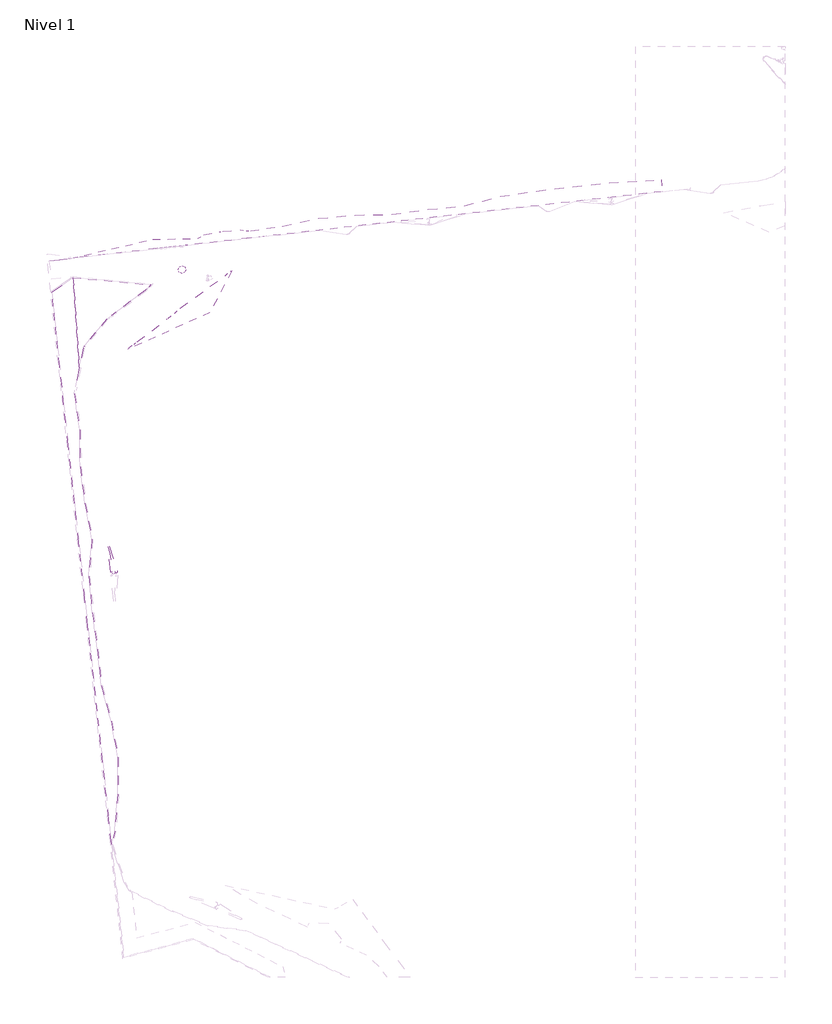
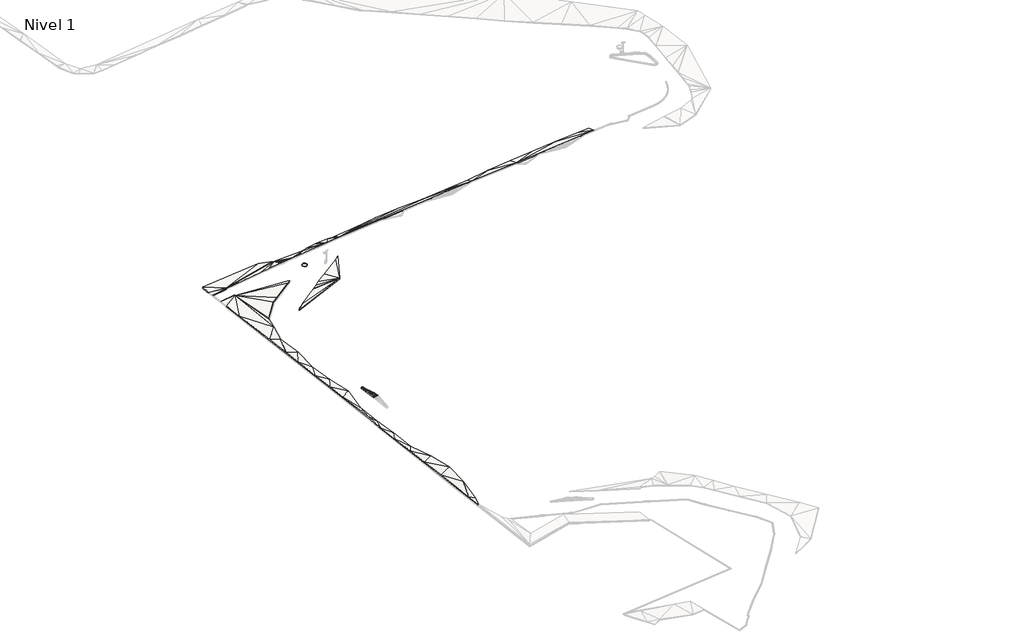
# One storey, part 15 of 45: 7 slabs.
"""IFC4 building model written with IfcOpenShell, lengths in millimetres."""

from ifc_helpers import new_model, si_unit, point, frame, frame_2d, origin, place, context, project, spatial, polyline, circle_curve, trimmed, segment, composite_curve, outline, extrude, faceted_brep, element, save
from ifc_brep_helpers import plane_surface, cylinder_surface, revolved_surface, spline_surface, advanced_brep

model = new_model("IFC4")

# Units and contexts
model_context = context("Model", 3, world=origin())
ifc_project = project(units=[si_unit("LENGTHUNIT", "METRE", prefix="MILLI")], contexts=[model_context])

# Site, building, storey
site = spatial("IfcSite", under=ifc_project)
building = spatial("IfcBuilding", under=site)
storey = spatial("IfcBuildingStorey", under=building, Name="Nivel 1", Elevation=0.0)

# Slabs
placement = place(None, origin())
element("IfcSlab", 1, ObjectType="Tierra de Chacra (50cm)", at=placement, inside=storey, context=model_context, shape_type="Brep", body=[
    faceted_brep([(-294089.6348993, -259022.6133777, 2811.5), (-294089.6348993, -259022.6133777, 3311.5), (-294907.8505448, -262636.9399536, 3000.0), (-294907.8505448, -262636.9399536, 2500.0), (-295528.3247091, -256915.565429, 3000.0), (-296342.142149, -249411.3780895, 3000.0), (-297338.1602518, -240227.1236483, 3000.0), (-298420.5217506, -230246.6992222, 3000.0), (-299320.3072824, -221949.8025658, 3000.0), (-300343.6716431, -212513.3890627, 3000.0), (-301250.0430893, -204155.7638787, 3000.0), (-302071.0453243, -196585.3257491, 3500.0), (-302863.1211213, -189281.6174766, 3500.0), (-303719.5992806, -181384.0568642, 3500.0), (-304525.2708274, -173954.9825723, 3500.0), (-305497.9026275, -164986.3725595, 3500.0), (-306592.7570737, -154890.7510227, 3500.0), (-307399.8586289, -147448.4906636, 3500.0), (-308450.3842535, -137761.6239233, 3500.0), (-309602.5820904, -127137.2406201, 3500.0), (-310427.3751029, -119531.8478398, 3500.0), (-311252.1681154, -111926.4550596, 3500.0), (-311252.1681154, -111926.4550596, 3000.0), (-310427.3751029, -119531.8478398, 3000.0), (-309602.5820904, -127137.2406201, 3000.0), (-308450.3842535, -137761.6239233, 3000.0), (-307399.8586289, -147448.4906636, 3000.0), (-306592.7570737, -154890.7510227, 3000.0), (-305497.9026275, -164986.3725595, 3000.0), (-304525.2708274, -173954.9825723, 3000.0), (-303719.5992806, -181384.0568642, 3000.0), (-302863.1211213, -189281.6174766, 3000.0), (-302071.0453243, -196585.3257491, 3000.0), (-301250.0430893, -204155.7638787, 2500.0), (-300343.6716431, -212513.3890627, 2500.0), (-299320.3072824, -221949.8025658, 2500.0), (-298420.5217506, -230246.6992222, 2500.0), (-297338.1602518, -240227.1236483, 2500.0), (-296342.142149, -249411.3780895, 2500.0), (-295528.3247091, -256915.565429, 2500.0), (-305459.9050286, -107899.422368, 3545.8087454), (-305459.9050286, -107899.422368, 3045.8087454), (-303683.7877777, -132366.510428, 4070.8056973), (-303683.7877777, -132366.510428, 3570.8056973), (-305121.3673077, -139539.3314468, 3795.0), (-305121.3673077, -139539.3314468, 3295.0), (-303659.8281486, -149473.2817741, 3696.8), (-303659.8281486, -149473.2817741, 3196.8), (-303513.4155731, -159517.8640647, 3170.0), (-303513.4155731, -159517.8640647, 2670.0), (-302231.9823922, -169463.731782, 3230.0), (-302231.9823922, -169463.731782, 2730.0), (-300307.0572754, -179277.2152195, 3500.0), (-300307.0572754, -179277.2152195, 3000.0), (-301181.6716311, -189426.5161133, 2826.1), (-301181.6716311, -189426.5161133, 2326.1), (-300146.8998808, -199406.0217509, 2796.3999992), (-300146.8998808, -199406.0217509, 2296.3999992), (-298844.3020353, -209323.8130337, 3000.0), (-298844.3020353, -209323.8130337, 2500.0), (-297719.9239631, -219281.1373038, 2852.474553), (-297719.9239631, -219281.1373038, 2352.474553), (-295040.61102, -229051.5675465, 3750.0), (-295040.61102, -229051.5675465, 3250.0), (-293270.7451273, -238875.2907751, 4341.8), (-293270.7451273, -238875.2907751, 3841.8), (-293231.2547991, -248895.168533, 3982.4), (-293231.2547991, -248895.168533, 3482.4)], [[[0, 1, 2, 3]], [[3, 2, 4, 5, 6, 7, 8, 9, 10, 11, 12, 13, 14, 15, 16, 17, 18, 19, 20, 21, 22, 23, 24, 25, 26, 27, 28, 29, 30, 31, 32, 33, 34, 35, 36, 37, 38, 39]], [[22, 21, 40, 41]], [[41, 40, 42, 43]], [[43, 42, 44, 45]], [[45, 44, 46, 47]], [[47, 46, 48, 49]], [[49, 48, 50, 51]], [[51, 50, 52, 53]], [[53, 52, 54, 55]], [[55, 54, 56, 57]], [[57, 56, 58, 59]], [[59, 58, 60, 61]], [[61, 60, 62, 63]], [[63, 62, 64, 65]], [[65, 64, 66, 67]], [[67, 66, 1, 0]], [[66, 64, 6]], [[67, 37, 65]], [[42, 40, 20]], [[43, 23, 41]], [[48, 46, 16]], [[54, 52, 13]], [[44, 42, 18]], [[56, 54, 11]], [[49, 27, 47]], [[55, 30, 53]], [[45, 25, 43]], [[57, 32, 55]], [[64, 62, 7]], [[2, 1, 4]], [[62, 60, 8]], [[66, 4, 1]], [[58, 56, 10]], [[60, 58, 9]], [[65, 36, 63]], [[3, 39, 0]], [[63, 35, 61]], [[67, 0, 39]], [[59, 33, 57]], [[61, 34, 59]], [[66, 6, 5, 4]], [[67, 39, 38, 37]], [[64, 7, 6]], [[65, 37, 36]], [[62, 8, 7]], [[63, 36, 35]], [[60, 9, 8]], [[61, 35, 34]], [[58, 10, 9]], [[59, 34, 33]], [[50, 48, 15]], [[56, 11, 10]], [[51, 28, 49]], [[57, 33, 32]], [[52, 50, 14]], [[53, 29, 51]], [[54, 13, 12, 11]], [[55, 32, 31, 30]], [[52, 14, 13]], [[53, 30, 29]], [[50, 15, 14]], [[46, 44, 17]], [[51, 29, 28]], [[47, 26, 45]], [[48, 16, 15]], [[49, 28, 27]], [[46, 17, 16]], [[47, 27, 26]], [[44, 18, 17]], [[45, 26, 25]], [[40, 21, 20]], [[41, 23, 22]], [[42, 20, 19, 18]], [[43, 25, 24, 23]]]),
    faceted_brep([(-284103.5525806, -97223.3113436, 3793.9858284), (-284103.5525806, -97223.3113436, 4293.9858284), (-306068.7538572, -102285.9457894, 3515.7515866), (-306068.7538572, -102285.9457894, 3015.7515866), (-312404.9739153, -101296.4657465, 3330.0), (-312404.9739153, -101296.4657465, 2830.0), (-312804.0307431, -97616.7741468, 3500.0), (-312804.0307431, -97616.7741468, 3000.0), (-288542.628562, -94877.4682408, 3500.0), (-288542.628562, -94877.4682408, 3000.0)], [[[0, 1, 2, 3]], [[3, 2, 4, 5]], [[5, 4, 6, 7]], [[7, 6, 8, 9]], [[9, 8, 1, 0]], [[8, 6, 2]], [[9, 3, 7]], [[8, 2, 1]], [[9, 0, 3]], [[6, 4, 2]], [[7, 3, 5]]]),
])
element("IfcSlab", 2, ObjectType="Chilca", at=placement, inside=storey, context=model_context, shape_type="Brep", body=[
    faceted_brep([(-149037.9826503, -81397.3503536, 3302.2817025), (-149037.9826503, -81397.3503536, 3602.2817025), (-144881.3928161, -81090.9838808, 3656.1832414), (-144881.3928161, -81090.9838808, 3356.1832414), (-144640.0088459, -84365.9315192, 4750.0), (-144640.0088459, -84365.9315192, 4450.0), (-178435.2829601, -88181.6876426, 4750.0), (-198335.9966557, -90428.6370204, 5150.0), (-256639.855435, -97011.6079235, 5150.0), (-262086.3507826, -97626.5607096, 5035.9), (-262086.3507826, -97626.5607096, 4735.9), (-256639.855435, -97011.6079235, 4850.0), (-198335.9966557, -90428.6370204, 4850.0), (-178435.2829601, -88181.6876426, 4450.0), (-274177.1483266, -98991.7082312, 4778.999929), (-275369.5719508, -99126.3423734, 4785.2939881), (-277456.3128498, -99361.9520721, 4728.8969573), (-278648.736853, -99496.5862571, 4674.3986952), (-279841.1605037, -99631.2204022, 4665.5098549), (-281113.0783122, -99774.8300721, 4633.7704242), (-282305.7041402, -99909.4870447, 4586.7101586), (-287324.4384064, -100476.1421905, 4465.3928596), (-291152.5223526, -100908.3634144, 4274.0659802), (-291152.5223526, -100908.3634144, 3974.0659802), (-287324.4384064, -100476.1421905, 4165.3928596), (-282305.7041402, -99909.4870447, 4286.7101586), (-281113.0783122, -99774.8300721, 4333.7704242), (-279841.1605037, -99631.2204022, 4365.5098549), (-278648.736853, -99496.5862571, 4374.3986952), (-277456.3128498, -99361.9520721, 4428.8969573), (-275369.5719508, -99126.3423734, 4485.2939881), (-274177.1483266, -98991.7082312, 4478.999929), (-306057.8153612, -102591.2899742, 3529.1), (-306057.8153612, -102591.2899742, 3229.1), (-283619.1656319, -97419.5330957, 4276.1256345), (-283619.1656319, -97419.5330957, 3976.1256345), (-271379.8215853, -97157.0177706, 4646.9412032), (-271379.8215853, -97157.0177706, 4346.9412032), (-269768.5162542, -96204.929342, 4391.8615974), (-269768.5162542, -96204.929342, 4091.8615974), (-265506.9142043, -95370.902968, 4274.9996971), (-265506.9142043, -95370.902968, 3974.9996971), (-264626.3086134, -95201.7155396, 4251.8921306), (-264626.3086134, -95201.7155396, 3951.8921306), (-259800.9517181, -94867.1756586, 4321.6582001), (-259800.9517181, -94867.1756586, 4021.6582001), (-258192.6888797, -95074.1954422, 4450.2864115), (-258192.6888797, -95074.1954422, 4150.2864115), (-256857.9831992, -95079.5025708, 4501.9298785), (-256857.9831992, -95079.5025708, 4201.9298785), (-248272.2306542, -93806.9601892, 4401.5437774), (-248272.2306542, -93806.9601892, 4101.5437774), (-238446.716124, -91698.830468, 4071.2068809), (-238446.716124, -91698.830468, 3771.2068809), (-228484.0106274, -90805.7695715, 4147.4776568), (-228484.0106274, -90805.7695715, 3847.4776568), (-218440.8160933, -90625.5815657, 4463.3840254), (-218440.8160933, -90625.5815657, 4163.3840254), (-208530.5163527, -89268.3749473, 4384.8113124), (-208530.5163527, -89268.3749473, 4084.8113124), (-198583.7104944, -88234.4946148, 4413.9875556), (-198583.7104944, -88234.4946148, 4113.9875556), (-188806.4138191, -85699.3104475, 3740.0179055), (-188806.4138191, -85699.3104475, 3440.0179055), (-178907.051195, -84245.236305, 3428.5706141), (-178907.051195, -84245.236305, 3128.5706141), (-168977.8694934, -83055.2628687, 3405.7046783), (-168977.8694934, -83055.2628687, 3105.7046783), (-159039.5103699, -81946.57175, 3410.137052), (-159039.5103699, -81946.57175, 3110.137052)], [[[0, 1, 2, 3]], [[3, 2, 4, 5]], [[5, 4, 6, 7, 8, 9, 10, 11, 12, 13]], [[10, 9, 14, 15, 16, 17, 18, 19, 20, 21, 22, 23, 24, 25, 26, 27, 28, 29, 30, 31]], [[23, 22, 32, 33]], [[33, 32, 34, 35]], [[35, 34, 36, 37]], [[37, 36, 38, 39]], [[39, 38, 40, 41]], [[41, 40, 42, 43]], [[43, 42, 44, 45]], [[45, 44, 46, 47]], [[47, 46, 48, 49]], [[49, 48, 50, 51]], [[51, 50, 52, 53]], [[53, 52, 54, 55]], [[55, 54, 56, 57]], [[57, 56, 58, 59]], [[59, 58, 60, 61]], [[61, 60, 62, 63]], [[63, 62, 64, 65]], [[65, 64, 66, 67]], [[67, 66, 68, 69]], [[69, 68, 1, 0]], [[68, 66, 6]], [[69, 13, 67]], [[56, 54, 8]], [[60, 58, 7]], [[64, 62, 6]], [[66, 64, 6]], [[4, 2, 1]], [[68, 4, 1]], [[57, 11, 55]], [[61, 12, 59]], [[65, 13, 63]], [[67, 13, 65]], [[5, 0, 3]], [[69, 0, 5]], [[36, 34, 16]], [[38, 36, 9]], [[40, 38, 9]], [[44, 42, 9]], [[42, 40, 9]], [[46, 44, 8]], [[50, 48, 8]], [[48, 46, 8]], [[37, 29, 35]], [[39, 10, 37]], [[41, 10, 39]], [[45, 10, 43]], [[43, 10, 41]], [[47, 11, 45]], [[51, 11, 49]], [[49, 11, 47]], [[34, 32, 22]], [[35, 23, 33]], [[54, 52, 8]], [[55, 11, 53]], [[58, 56, 7]], [[62, 60, 7]], [[68, 6, 4]], [[59, 12, 57]], [[63, 12, 61]], [[69, 5, 13]], [[62, 7, 6]], [[63, 13, 12]], [[52, 50, 8]], [[56, 8, 7]], [[53, 11, 51]], [[57, 12, 11]], [[44, 9, 8]], [[45, 11, 10]], [[34, 22, 21]], [[35, 24, 23]], [[34, 19, 18]], [[34, 20, 19]], [[35, 27, 26]], [[35, 26, 25]], [[34, 18, 17]], [[35, 28, 27]], [[34, 17, 16]], [[36, 16, 15]], [[35, 29, 28]], [[37, 30, 29]], [[36, 15, 14]], [[37, 31, 30]], [[36, 14, 9]], [[37, 10, 31]], [[34, 21, 20]], [[35, 25, 24]]]),
])
element("IfcSlab", 3, ObjectType="Lippia", at=placement, inside=storey, context=model_context, shape_type="Brep", body=[
    faceted_brep([(-305462.4622764, -107864.1947353, 3245.0528565), (-305462.4622764, -107864.1947353, 3545.0528565), (-284279.1112514, -109828.1488376, 3694.551492), (-284279.1112514, -109828.1488376, 3394.551492), (-285382.5147654, -111081.3417336, 4063.0491768), (-285382.5147654, -111081.3417336, 3763.0491768), (-285767.6830926, -111323.0164437, 4114.3819853), (-285767.6830926, -111323.0164437, 3814.3819853), (-293766.2190526, -117345.8456746, 4268.5), (-293766.2190526, -117345.8456746, 3968.5), (-296264.7635424, -119203.9218633, 4261.8814791), (-296264.7635424, -119203.9218633, 3961.8814791), (-302409.8709224, -126558.4331392, 4007.2719973), (-302409.8709224, -126558.4331392, 3707.2719973), (-302651.7308553, -127032.6029541, 4051.5916811), (-302651.7308553, -127032.6029541, 3751.5916811), (-303683.7877777, -132366.510428, 4070.8056973), (-303683.7877777, -132366.510428, 3770.8056973)], [[[0, 1, 2, 3]], [[3, 2, 4, 5]], [[5, 4, 6, 7]], [[7, 6, 8, 9]], [[9, 8, 10, 11]], [[11, 10, 12, 13]], [[13, 12, 14, 15]], [[15, 14, 16, 17]], [[17, 16, 1, 0]], [[16, 14, 1]], [[17, 0, 15]], [[12, 10, 1]], [[14, 12, 1]], [[8, 6, 1]], [[6, 4, 2]], [[6, 2, 1]], [[10, 8, 1]], [[13, 0, 11]], [[15, 0, 13]], [[9, 0, 7]], [[7, 3, 5]], [[7, 0, 3]], [[11, 0, 9]]]),
])
element("IfcSlab", 4, ObjectType="Lippia", at=placement, inside=storey, context=model_context, shape_type="AdvancedBrep", body=[
    advanced_brep(
    [(-293737.3291511, -188615.3513584, 4450.0), (-293737.3291511, -188615.3513584, 4750.0), (-294648.1070489, -188718.4464669, 4750.0), (-294648.1070489, -188718.4464669, 4450.0), (-293351.9042997, -187939.5740195, 4450.0), (-293351.9042997, -187939.5740195, 4750.0), (-295493.1794415, -181254.5584104, 4450.0), (-295493.1794415, -181254.5584104, 4750.0), (-295197.7382553, -188279.3801084, 4450.0), (-295197.7382553, -188279.3801084, 4750.0), (-295981.2351162, -181327.8440632, 4750.0), (-295981.2351162, -181327.8440632, 4450.0), (-294116.9127317, -186771.9191441, 5250.0), (-294471.3269402, -186313.4553094, 5250.0), (-294800.8551873, -186265.3708486, 5250.0), (-294893.4712745, -186588.9282434, 5250.0), (-294767.2571789, -186832.7677923, 5250.0), (-294633.3677545, -187114.0889065, 5250.0), (-294192.9507832, -187143.1666237, 5250.0), (-294036.5342342, -187992.3946771, 5050.0), (-294489.599761, -188215.9637263, 5050.0), (-294116.9127317, -186771.9191441, 4950.0), (-294192.9507832, -187143.1666237, 4950.0), (-294633.3677545, -187114.0889065, 4950.0), (-294767.2571789, -186832.7677923, 4950.0), (-294893.4712745, -186588.9282434, 4950.0), (-294800.8551873, -186265.3708486, 4950.0), (-294471.3269402, -186313.4553094, 4950.0), (-294036.5342342, -187992.3946771, 4750.0), (-294489.599761, -188215.9637263, 4750.0), (-294665.1948215, -185054.4331454, 5050.0), (-295147.6527009, -185168.9946669, 5050.0), (-294665.1948215, -185054.4331454, 4750.0), (-295147.6527009, -185168.9946669, 4750.0), (-294848.8713557, -188017.8371039, 5050.0), (-294701.1270428, -188221.2655337, 5050.0), (-294848.8713557, -188017.8371039, 4750.0), (-294701.1270428, -188221.2655337, 4750.0), (-293792.3936468, -187726.783921, 5050.0), (-293792.3936468, -187726.783921, 4750.0), (-293790.5460685, -187366.0204436, 5050.0), (-293790.5460685, -187366.0204436, 4750.0), (-294956.7682901, -184899.6677435, 5050.0), (-294956.7682901, -184899.6677435, 4750.0)],
    [
        (0, 1),
        (1, 2),
        (2, 3),
        (3, 0),
        (4, 5),
        (5, 1, circle_curve(frame((-293817.506904, -188121.8216952, 4750.0), z_axis=(0.0, 0.0, -1.0), x_axis=(0.42823783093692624, 0.9036660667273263, 0.0)), 500.0000005)),
        (0, 4, circle_curve(frame((-293817.506904, -188121.8216952, 4450.0), z_axis=(0.0, 0.0, 1.0), x_axis=(0.42823783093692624, 0.9036660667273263, 0.0)), 500.0000005)),
        (6, 7),
        (7, 5),
        (4, 6),
        (8, 9),
        (9, 10),
        (10, 11),
        (11, 8),
        (2, 9, circle_curve(frame((-294701.1270428, -188221.2655337, 4750.0), z_axis=(0.0, 0.0, -1.0), x_axis=(0.42823783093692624, 0.9036660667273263, 0.0)), 500.0000001)),
        (8, 3, circle_curve(frame((-294701.1270428, -188221.2655337, 4450.0), z_axis=(0.0, 0.0, 1.0), x_axis=(0.42823783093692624, 0.9036660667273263, 0.0)), 500.0000001)),
        (12, 13),
        (13, 14),
        (14, 15),
        (15, 16),
        (16, 17),
        (17, 18),
        (18, 12),
        (5, 19),
        (19, 1),
        (1, 20),
        (20, 2),
        (21, 22),
        (22, 23),
        (23, 24),
        (24, 25),
        (25, 26),
        (26, 27),
        (27, 21),
        (0, 28),
        (28, 4),
        (3, 29),
        (29, 0),
        (13, 30),
        (30, 14),
        (14, 31),
        (31, 15),
        (26, 32),
        (32, 27),
        (25, 33),
        (33, 26),
        (30, 31),
        (12, 30),
        (33, 32),
        (32, 21),
        (34, 9),
        (9, 35),
        (35, 34),
        (16, 34),
        (34, 17),
        (36, 37),
        (37, 8),
        (8, 36),
        (23, 36),
        (36, 24),
        (2, 35),
        (35, 20),
        (20, 19),
        (19, 34),
        (37, 3),
        (36, 28),
        (28, 29),
        (29, 37),
        (19, 17),
        (19, 18),
        (5, 38),
        (38, 19),
        (23, 28),
        (22, 28),
        (28, 39),
        (39, 4),
        (40, 18),
        (18, 38),
        (38, 40),
        (40, 5),
        (5, 30),
        (30, 40),
        (41, 39),
        (39, 22),
        (22, 41),
        (41, 32),
        (32, 4),
        (4, 41),
        (34, 15),
        (31, 34),
        (31, 9),
        (36, 33),
        (25, 36),
        (8, 33),
        (40, 12),
        (21, 41),
        (42, 31),
        (30, 42),
        (43, 32),
        (33, 43),
        (10, 7, circle_curve(frame((-295731.2532259, -181330.8530544, 4750.0), z_axis=(0.0, 0.0, -1.0), x_axis=(0.42823783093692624, 0.9036660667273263, 0.0)), 249.999999)),
        (6, 11, circle_curve(frame((-295731.2532259, -181330.8530544, 4450.0), z_axis=(0.0, 0.0, 1.0), x_axis=(0.42823783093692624, 0.9036660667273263, 0.0)), 249.999999)),
        (31, 10),
        (42, 10),
        (42, 7),
        (30, 7),
        (11, 33),
        (11, 43),
        (6, 43),
        (6, 32),
    ],
    [
        plane_surface(frame((-293737.3291511, -188615.3513584, 4450.0), z_axis=(0.11247627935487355, -0.9936544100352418, 0.0), x_axis=(0.0, 0.0, 1.0))),
        cylinder_surface(frame((-293817.506904, -188121.8216952, 4750.0), z_axis=(0.0, 0.0, -0.9999999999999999), x_axis=(0.42823783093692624, 0.9036660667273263, 0.0)), 500.0000005),
        plane_surface(frame((-295493.1794415, -181254.5584104, 4450.0), z_axis=(0.9523385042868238, 0.3050432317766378, 0.0), x_axis=(0.0, 0.0, 1.0))),
        plane_surface(frame((-295197.7382553, -188279.3801084, 4450.0), z_axis=(-0.9937082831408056, -0.1119993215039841, 0.0), x_axis=(0.0, 0.0, 1.0))),
        cylinder_surface(frame((-294701.1270428, -188221.2655337, 4750.0), z_axis=(0.0, 0.0, -0.9999999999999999), x_axis=(0.42823783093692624, 0.9036660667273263, 0.0)), 500.0000001),
        plane_surface(frame((-294553.73455, -186718.528124, 5250.0), z_axis=(0.0, 0.0, 1.0000000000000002), x_axis=(-0.6116059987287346, 0.7911625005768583, 0.0))),
        spline_surface(2, 1, [[(-293737.3291511, -188615.3513584, 4750.0), (-294036.5342342, -187992.3946771, 5050.0)], [(-293501.5336030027, -188577.04452782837, 4750.0), (-294036.5342342, -187992.3946771, 5050.0)], [(-293383.1823680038, -188369.53563899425, 4750.0), (-294036.5342342, -187992.3946771, 5050.0)], [(-293264.83113297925, -188162.02675022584, 4750.0), (-294036.5342342, -187992.3946771, 5050.0)], [(-293351.9042997, -187939.5740195, 4750.0), (-294036.5342342, -187992.3946771, 5050.0)]], [3, 2, 3], [2, 2], [0.0, 1.0, 2.0], [0.0, 1.0], weights=[[1.0, 1.0], [0.9023052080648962, 0.9023052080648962], [1.0, 1.0], [0.9023052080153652, 0.9023052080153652], [1.0, 1.0]]),
        plane_surface(frame((-294291.6786537, -188516.5871839, 4850.0), z_axis=(0.05948162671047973, -0.5254812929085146, 0.8487233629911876), x_axis=(0.9936544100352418, 0.11247627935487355, 0.0))),
        plane_surface(frame((-294553.73455, -186718.528124, 4950.0), z_axis=(0.0, 0.0, -1.0000000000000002), x_axis=(-0.6116059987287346, 0.7911625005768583, 0.0))),
        spline_surface(1, 2, [[(-293737.3291511, -188615.3513584, 4450.0), (-293501.5336030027, -188577.04452782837, 4450.0), (-293383.1823680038, -188369.53563899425, 4450.0), (-293264.83113297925, -188162.02675022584, 4450.0), (-293351.9042997, -187939.5740195, 4450.0)], [(-294036.5342342, -187992.3946771, 4750.0), (-294036.5342342, -187992.3946771, 4750.0), (-294036.5342342, -187992.3946771, 4750.0), (-294036.5342342, -187992.3946771, 4750.0), (-294036.5342342, -187992.3946771, 4750.0)]], [2, 2], [3, 2, 3], [0.0, 1.0], [0.0, 1.0, 2.0], weights=[[1.0, 0.9023052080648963, 1.0, 0.9023052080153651, 1.0], [1.0, 0.9023052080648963, 1.0, 0.9023052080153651, 1.0]]),
        plane_surface(frame((-294291.6786537, -188516.5871839, 4550.0), z_axis=(-0.05948162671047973, 0.5254812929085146, -0.8487233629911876), x_axis=(0.9936544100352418, 0.11247627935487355, 0.0))),
        plane_surface(frame((-294645.7923163, -185877.7531011, 5183.3333333), z_axis=(0.023399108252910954, 0.1603567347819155, 0.9867817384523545), x_axis=(0.9895208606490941, -0.14438998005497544, 0.0))),
        plane_surface(frame((-294947.3263876, -186007.7645863, 5183.3333333), z_axis=(-0.28876347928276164, 0.0826565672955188, 0.9538257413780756), x_axis=(0.2751911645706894, 0.9613895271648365, 0.0))),
        plane_surface(frame((-294645.7923163, -185877.7531011, 4883.3333333), z_axis=(-0.023399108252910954, -0.1603567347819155, -0.9867817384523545), x_axis=(0.9895208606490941, -0.14438998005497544, 0.0))),
        plane_surface(frame((-294947.3263876, -186007.7645863, 4883.3333333), z_axis=(0.28876347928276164, -0.0826565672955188, -0.9538257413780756), x_axis=(0.2751911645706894, 0.9613895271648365, 0.0))),
        plane_surface(frame((-294871.2342366, -185496.2662203, 5116.6666667), z_axis=(-0.039690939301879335, 0.16715216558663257, 0.9851318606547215), x_axis=(0.29712426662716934, -0.939337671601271, 0.17135317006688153))),
        plane_surface(frame((-294417.8114978, -186046.602533, 5183.3333333), z_axis=(0.24408528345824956, 0.18868945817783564, 0.9512195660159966), x_axis=(0.15034746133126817, -0.9763906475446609, 0.155103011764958))),
        plane_surface(frame((-294871.2342366, -185496.2662203, 4816.6666667), z_axis=(0.039690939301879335, -0.16715216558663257, -0.9851318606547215), x_axis=(0.29712426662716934, -0.939337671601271, 0.17135317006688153))),
        plane_surface(frame((-294417.8114978, -186046.602533, 4883.3333333), z_axis=(-0.24408528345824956, -0.18868945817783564, -0.9512195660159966), x_axis=(0.15034746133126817, -0.9763906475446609, 0.155103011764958))),
        plane_surface(frame((-294915.9122179, -188172.827582, 4950.0), z_axis=(-0.4586719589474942, -0.33312046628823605, 0.823802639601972), x_axis=(-0.6591636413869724, -0.49417023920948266, -0.5668324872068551))),
        plane_surface(frame((-294749.8320964, -187321.5646009, 5183.3333333), z_axis=(-0.29301317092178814, -0.13945403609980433, 0.9458836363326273), x_axis=(-0.4297425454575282, 0.9029514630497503, 0.0))),
        plane_surface(frame((-294915.9122179, -188172.827582, 4650.0), z_axis=(0.4586719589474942, 0.33312046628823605, -0.823802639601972), x_axis=(-0.6591636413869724, -0.49417023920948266, -0.5668324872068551))),
        plane_surface(frame((-294749.8320964, -187321.5646009, 4883.3333333), z_axis=(0.29301317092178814, 0.13945403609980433, -0.9458836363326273), x_axis=(-0.4297425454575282, 0.9029514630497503, 0.0))),
        revolved_surface(polyline([(-294701.1270428, -188221.2655337, 5050.0), (-295197.7382553, -188279.3801084, 4750.0)]), (-294701.1270428, -188221.2655337, 5050.0), (0.0, 0.0, -1.0)),
        plane_surface(frame((-294519.0330984, -188111.8652602, 5050.0), z_axis=(0.0, 0.0, 1.0000000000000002), x_axis=(0.9996860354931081, 0.025056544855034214, 0.0))),
        plane_surface(frame((-294612.9446176, -188385.2252423, 4950.0), z_axis=(0.012922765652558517, -0.5155821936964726, 0.8567426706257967), x_axis=(0.09092853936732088, -0.8526582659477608, -0.5144957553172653))),
        revolved_surface(polyline([(-294648.1070489, -188718.4464669, 4450.0), (-294701.1270428, -188221.2655337, 4750.0)]), (-294701.1270428, -188221.2655337, 4750.0), (0.0, 0.0, -1.0)),
        plane_surface(frame((-294519.0330984, -188111.8652602, 4750.0), z_axis=(0.0, 0.0, -1.0000000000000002), x_axis=(0.9996860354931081, 0.025056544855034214, 0.0))),
        plane_surface(frame((-294612.9446176, -188385.2252423, 4650.0), z_axis=(-0.012922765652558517, 0.5155821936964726, -0.8567426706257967), x_axis=(0.09092853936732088, -0.8526582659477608, -0.5144957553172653))),
        plane_surface(frame((-294506.2577815, -187708.1068958, 5116.6666667), z_axis=(0.006815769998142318, -0.2176169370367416, 0.9760104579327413), x_axis=(-0.5523321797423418, 0.8128171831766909, 0.18508751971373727))),
        plane_surface(frame((-294287.6175906, -187416.5500691, 5183.3333333), z_axis=(-0.015309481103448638, -0.23188048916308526, 0.9726238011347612), x_axis=(-0.17646838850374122, 0.9580949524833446, 0.2256390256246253))),
        plane_surface(frame((-293726.9440602, -187886.2508725, 4950.0), z_axis=(0.39713872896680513, -0.3650367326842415, 0.8420386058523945), x_axis=(0.9136457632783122, 0.07048971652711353, -0.40035311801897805))),
        plane_surface(frame((-294087.8210488, -188274.5699206, 4950.0), z_axis=(0.1762173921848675, -0.3571067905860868, 0.9172906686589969), x_axis=(0.8330728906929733, -0.4422863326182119, -0.3322233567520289))),
        plane_surface(frame((-294506.2577815, -187708.1068958, 4816.6666667), z_axis=(-0.006815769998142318, 0.2176169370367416, -0.9760104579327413), x_axis=(-0.5523321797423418, 0.8128171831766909, 0.18508751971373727))),
        plane_surface(frame((-294287.6175906, -187416.5500691, 4883.3333333), z_axis=(0.015309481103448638, 0.23188048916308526, -0.9726238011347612), x_axis=(-0.17646838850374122, 0.9580949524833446, 0.2256390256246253))),
        plane_surface(frame((-293726.9440602, -187886.2508725, 4650.0), z_axis=(-0.39713872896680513, 0.3650367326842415, -0.8420386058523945), x_axis=(0.9136457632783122, 0.07048971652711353, -0.40035311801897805))),
        plane_surface(frame((-294087.8210488, -188274.5699206, 4650.0), z_axis=(-0.1762173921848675, 0.3571067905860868, -0.9172906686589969), x_axis=(0.8330728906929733, -0.4422863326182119, -0.3322233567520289))),
        plane_surface(frame((-293925.2968329, -187411.9903295, 5116.6666667), z_axis=(0.4440603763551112, -0.002274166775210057, 0.8959939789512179), x_axis=(-0.8022568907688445, 0.4442940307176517, 0.3987313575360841))),
        plane_surface(frame((-293935.8817299, -186786.6758695, 4950.0), z_axis=(0.7694790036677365, 0.2911522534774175, 0.5684473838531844), x_axis=(0.5609934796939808, -0.7335366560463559, -0.38367993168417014))),
        plane_surface(frame((-293925.2968329, -187411.9903295, 4816.6666667), z_axis=(-0.4440603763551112, 0.002274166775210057, -0.8959939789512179), x_axis=(-0.8022568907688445, 0.4442940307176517, 0.3987313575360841))),
        plane_surface(frame((-293935.8817299, -186786.6758695, 4650.0), z_axis=(-0.7694790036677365, -0.2911522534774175, -0.5684473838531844), x_axis=(0.5609934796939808, -0.7335366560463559, -0.38367993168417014))),
        plane_surface(frame((-294007.2928881, -187620.7817406, 5116.6666667), z_axis=(0.20500570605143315, -0.18843443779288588, 0.960450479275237), x_axis=(-0.544557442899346, 0.7934277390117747, 0.271900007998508))),
        plane_surface(frame((-294007.2928881, -187620.7817406, 4816.6666667), z_axis=(-0.20500570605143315, 0.18843443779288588, -0.960450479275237), x_axis=(-0.544557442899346, 0.7934277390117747, 0.271900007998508))),
        plane_surface(frame((-294963.331777, -186591.9200047, 5116.6666667), z_axis=(-0.8811347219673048, -0.0924117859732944, 0.4637474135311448), x_axis=(-0.030896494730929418, 0.9898734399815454, 0.13854955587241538))),
        plane_surface(frame((-294836.5332697, -187146.5110465, 5183.3333333), z_axis=(-0.2737495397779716, -0.14169584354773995, 0.9513061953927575), x_axis=(0.06775235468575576, 0.9837903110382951, 0.16603084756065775))),
        plane_surface(frame((-295064.7541039, -187155.4039597, 4950.0), z_axis=(-0.6220514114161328, -0.06523960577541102, 0.7802536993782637), x_axis=(-0.016026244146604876, -0.9952529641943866, -0.09599321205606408))),
        plane_surface(frame((-294963.331777, -186591.9200047, 4816.6666667), z_axis=(0.8811347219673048, 0.0924117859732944, -0.4637474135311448), x_axis=(-0.030896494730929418, 0.9898734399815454, 0.13854955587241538))),
        plane_surface(frame((-294836.5332697, -187146.5110465, 4883.3333333), z_axis=(0.2737495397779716, 0.14169584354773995, -0.9513061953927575), x_axis=(0.06775235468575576, 0.9837903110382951, 0.16603084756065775))),
        plane_surface(frame((-295064.7541039, -187155.4039597, 4650.0), z_axis=(0.6220514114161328, 0.06523960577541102, -0.7802536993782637), x_axis=(-0.016026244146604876, -0.9952529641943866, -0.09599321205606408))),
        plane_surface(frame((-294033.4698611, -187093.7020705, 5183.3333333), z_axis=(0.4062004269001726, -0.08319703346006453, 0.9099887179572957), x_axis=(-0.20065221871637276, -0.9796625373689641, 0.0))),
        plane_surface(frame((-294190.8845406, -186397.4575777, 5116.6666667), z_axis=(0.8448237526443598, 0.31966088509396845, 0.4290568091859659), x_axis=(0.3022606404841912, -0.946827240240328, 0.11025734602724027))),
        plane_surface(frame((-294033.4698611, -187093.7020705, 4883.3333333), z_axis=(-0.4062004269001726, 0.08319703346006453, -0.9099887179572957), x_axis=(-0.20065221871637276, -0.9796625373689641, 0.0))),
        plane_surface(frame((-294190.8845406, -186397.4575777, 4816.6666667), z_axis=(-0.8448237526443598, -0.31966088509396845, -0.4290568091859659), x_axis=(0.3022606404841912, -0.946827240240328, 0.11025734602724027))),
        plane_surface(frame((-294923.2052708, -185041.031852, 5050.0), z_axis=(0.0, 0.0, 1.0), x_axis=(-0.578241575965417, -0.8158656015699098, 0.0))),
        plane_surface(frame((-293644.948005, -187677.4594614, 4950.0), z_axis=(0.5619569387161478, -0.0028779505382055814, 0.8271614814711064), x_axis=(0.7675958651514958, -0.370807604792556, -0.5227794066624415))),
        plane_surface(frame((-294923.2052708, -185041.031852, 4750.0), z_axis=(0.0, 0.0, -1.0), x_axis=(-0.578241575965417, -0.8158656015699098, 0.0))),
        plane_surface(frame((-293644.948005, -187677.4594614, 4650.0), z_axis=(-0.5619569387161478, 0.0028779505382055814, -0.8271614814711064), x_axis=(0.7675958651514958, -0.370807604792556, -0.5227794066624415))),
        cylinder_surface(frame((-295731.2532259, -181330.8530544, 4750.0), z_axis=(0.0, 0.0, -0.9999999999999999), x_axis=(0.42823783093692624, 0.9036660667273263, 0.0)), 249.999999),
        plane_surface(frame((-295442.2086908, -184925.4062795, 4850.0), z_axis=(-0.5980112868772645, -0.06740092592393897, 0.7986486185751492), x_axis=(0.1119993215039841, -0.9937082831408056, 0.0))),
        plane_surface(frame((-295361.8853691, -183798.8354912, 4950.0), z_axis=(-0.08391740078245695, 0.05947613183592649, 0.9946961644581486), x_axis=(0.2114622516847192, -0.9744187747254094, 0.07610366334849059))),
        spline_surface(2, 1, [[(-295493.1794415, -181254.5584104, 4750.0), (-294956.7682901, -184899.6677435, 5050.0)], [(-295558.07768033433, -181052.046562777, 4750.0), (-294956.7682901, -184899.6677435, 5050.0)], [(-295768.37663459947, -181083.62471450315, 4750.0), (-294956.7682901, -184899.6677435, 5050.0)], [(-295978.67558886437, -181115.202866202, 4750.0), (-294956.7682901, -184899.6677435, 5050.0)], [(-295981.2351162, -181327.8440632, 4750.0), (-294956.7682901, -184899.6677435, 5050.0)]], [3, 2, 3], [2, 2], [0.0, 1.0, 2.0], [0.0, 1.0], weights=[[1.0, 1.0], [0.7617038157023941, 0.7617038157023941], [1.0, 1.0], [0.7617038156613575, 0.7617038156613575], [1.0, 1.0]]),
        plane_surface(frame((-295038.380851, -183736.2197665, 4950.0), z_axis=(0.047146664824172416, 0.0888229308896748, 0.9949309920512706), x_axis=(0.8832825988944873, -0.46884096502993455, 0.0))),
        plane_surface(frame((-294503.4261876, -184749.5218585, 4850.0), z_axis=(0.5991938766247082, 0.1919275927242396, 0.7772583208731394), x_axis=(0.4124470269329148, -0.9060963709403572, -0.09421685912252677))),
        plane_surface(frame((-295442.2086908, -184925.4062795, 4550.0), z_axis=(0.5980112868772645, 0.06740092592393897, -0.7986486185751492), x_axis=(0.1119993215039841, -0.9937082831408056, 0.0))),
        plane_surface(frame((-295361.8853691, -183798.8354912, 4650.0), z_axis=(0.08391740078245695, -0.05947613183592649, -0.9946961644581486), x_axis=(0.2114622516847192, -0.9744187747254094, 0.07610366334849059))),
        spline_surface(1, 2, [[(-295493.1794415, -181254.5584104, 4450.0), (-295558.07768033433, -181052.046562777, 4450.0), (-295768.37663459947, -181083.62471450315, 4450.0), (-295978.67558886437, -181115.202866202, 4450.0), (-295981.2351162, -181327.8440632, 4450.0)], [(-294956.7682901, -184899.6677435, 4750.0), (-294956.7682901, -184899.6677435, 4750.0), (-294956.7682901, -184899.6677435, 4750.0), (-294956.7682901, -184899.6677435, 4750.0), (-294956.7682901, -184899.6677435, 4750.0)]], [2, 2], [3, 2, 3], [0.0, 1.0], [0.0, 1.0, 2.0], weights=[[1.0, 0.7617038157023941, 1.0, 0.7617038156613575, 1.0], [1.0, 0.7617038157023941, 1.0, 0.7617038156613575, 1.0]]),
        plane_surface(frame((-295038.380851, -183736.2197665, 4650.0), z_axis=(-0.047146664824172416, -0.0888229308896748, -0.9949309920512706), x_axis=(0.8832825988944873, -0.46884096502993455, 0.0))),
        plane_surface(frame((-294503.4261876, -184749.5218585, 4550.0), z_axis=(-0.5991938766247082, -0.1919275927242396, -0.7772583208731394), x_axis=(0.4124470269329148, -0.9060963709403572, -0.09421685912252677))),
    ],
    [
        (0, [[1, 2, 3, 4]]),
        (1, [[5, 6, -1, 7]]),
        (2, [[8, 9, -5, 10]]),
        (3, [[11, 12, 13, 14]]),
        (4, [[-3, 15, -11, 16]]),
        (5, [[17, 18, 19, 20, 21, 22, 23]]),
        (6, [[-6, 24, 25]]),
        (7, [[-2, 26, 27]]),
        (8, [[28, 29, 30, 31, 32, 33, 34]]),
        (9, [[35, 36, -7]]),
        (10, [[37, 38, -4]]),
        (11, [[-18, 39, 40]]),
        (12, [[-19, 41, 42]]),
        (13, [[43, 44, -33]]),
        (14, [[45, 46, -32]]),
        (15, [[-41, -40, 47]]),
        (16, [[-39, -17, 48]]),
        (17, [[49, -43, -46]]),
        (18, [[50, -34, -44]]),
        (19, [[51, 52, 53]]),
        (20, [[-21, 54, 55]]),
        (21, [[56, 57, 58]]),
        (22, [[59, 60, -30]]),
        (23, [[-52, -15, 61]]),
        (24, [[62, 63, 64, -53]]),
        (25, [[-61, -27, -62]]),
        (26, [[65, -16, -57]]),
        (27, [[-56, 66, 67, 68]]),
        (28, [[-68, -37, -65]]),
        (29, [[69, -55, -64]]),
        (30, [[70, -22, -69]]),
        (31, [[-24, 71, 72]]),
        (32, [[-26, -25, -63]]),
        (33, [[-66, -59, 73]]),
        (34, [[-73, -29, 74]]),
        (35, [[75, 76, -36]]),
        (36, [[-67, -35, -38]]),
        (37, [[77, 78, 79]]),
        (38, [[80, 81, 82]]),
        (39, [[83, 84, 85]]),
        (40, [[86, 87, 88]]),
        (41, [[-78, -70, -72]]),
        (42, [[-75, -74, -84]]),
        (43, [[89, -42, 90]]),
        (44, [[-54, -20, -89]]),
        (45, [[91, -51, -90]]),
        (46, [[92, -45, 93]]),
        (47, [[-93, -31, -60]]),
        (48, [[-92, -58, 94]]),
        (49, [[-23, -77, 95]]),
        (50, [[-48, -95, -82]]),
        (51, [[96, -85, -28]]),
        (52, [[-86, -96, -50]]),
        (53, [[97, -47, 98]]),
        (54, [[-71, -80, -79]]),
        (55, [[99, -49, 100]]),
        (56, [[-83, -88, -76]]),
        (57, [[-13, 101, -8, 102]]),
        (58, [[-12, -91, 103]]),
        (59, [[-103, -97, 104]]),
        (60, [[-104, 105, -101]]),
        (61, [[-98, 106, -105]]),
        (62, [[-81, -9, -106]]),
        (63, [[107, -94, -14]]),
        (64, [[108, -100, -107]]),
        (65, [[-102, 109, -108]]),
        (66, [[-109, 110, -99]]),
        (67, [[-110, -10, -87]]),
    ],
),
])
element("IfcSlab", 5, ObjectType="Alcorque", at=placement, inside=storey, context=model_context, shape_type="SweptSolid", body=[
    extrude(outline(composite_curve([segment(trimmed(circle_curve(frame_2d((-275653.5093934, -105702.6802352)), 1050.0), [point((-276703.5093934, -105702.6802352))], [point((-274603.5093934, -105702.6802352))], False, "CARTESIAN"), True, "CONTINUOUS"), segment(trimmed(circle_curve(frame_2d((-275653.5093934, -105702.6802352)), 1050.0), [point((-274603.5093934, -105702.6802352))], [point((-276703.5093934, -105702.6802352))], False, "CARTESIAN"), True, "CONTINUOUS")], self_intersect=False), holes=[composite_curve([segment(trimmed(circle_curve(frame_2d((-275653.5093934, -105702.6802352)), 950.0), [point((-276603.5093934, -105702.6802352))], [point((-274703.5093934, -105702.6802352))], True, "CARTESIAN"), True, "CONTINUOUS"), segment(trimmed(circle_curve(frame_2d((-275653.5093934, -105702.6802352)), 950.0), [point((-274703.5093934, -105702.6802352))], [point((-276603.5093934, -105702.6802352))], True, "CARTESIAN"), True, "CONTINUOUS")], self_intersect=False)]), frame((0.0, 0.0, 4980.0), z_axis=(0.0, 0.0, 1.0), x_axis=(1.0, 0.0, 0.0)), (0.0, 0.0, 1.0), 150.0),
])
element("IfcSlab", 6, ObjectType="Bordillo", at=placement, inside=storey, context=model_context, shape_type="Brep", body=[
    faceted_brep([(-305513.670853, -107410.6681681, 3129.1035808), (-305513.670853, -107410.6681681, 3529.1035808), (-305496.8415859, -107559.7211119, 3529.1035808), (-305496.8415859, -107559.7211119, 3129.1035808), (-311447.425994, -108231.5895742, 3231.7004071), (-311447.425994, -108231.5895742, 2831.7004071), (-311464.2552592, -108082.5366446, 3231.7004071), (-311464.2552592, -108082.5366446, 2831.7004071)], [[[0, 1, 2, 3]], [[3, 2, 4, 5]], [[5, 4, 6, 7]], [[7, 6, 1, 0]], [[6, 4, 2, 1]], [[7, 0, 3, 5]]]),
    faceted_brep([(-311991.5722371, -103412.2115226, 2831.7004071), (-311991.5722371, -103412.2115226, 3231.7004071), (-312008.4015024, -103263.158593, 3231.7004071), (-312008.4015024, -103263.158593, 2831.7004071), (-306057.8153168, -102591.2899288, 3529.1047647), (-306057.8153168, -102591.2899288, 3129.1047647), (-306040.9860513, -102740.3428584, 3529.1047647), (-306040.9860513, -102740.3428584, 3129.1047647)], [[[0, 1, 2, 3]], [[3, 2, 4, 5]], [[5, 4, 6, 7]], [[7, 6, 1, 0]], [[6, 4, 2, 1]], [[7, 0, 3, 5]]]),
])
element("IfcSlab", 7, ObjectType="Vidrio", at=placement, inside=storey, context=model_context, shape_type="Brep", body=[
    faceted_brep([(-268101.8130204, -117481.8819532, 3480.0), (-268101.8130204, -117481.8819532, 3780.0), (-290397.8506214, -127414.6495642, 3775.0904844), (-290397.8506214, -127414.6495642, 3475.0904844), (-290080.7784714, -126991.2881093, 4182.7287667), (-290080.7784714, -126991.2881093, 3882.7287667), (-289789.9615828, -126765.9140969, 4184.4514904), (-289789.9615828, -126765.9140969, 3884.4514904), (-288762.5863992, -126000.2464211, 4185.4943547), (-288762.5863992, -126000.2464211, 3885.4943547), (-287864.6964562, -125329.9855082, 4194.3153088), (-287864.6964562, -125329.9855082, 3894.3153088), (-279882.1939175, -119305.8681501, 4239.0346108), (-279882.1939175, -119305.8681501, 3939.0346108), (-279498.6829861, -119010.2442702, 4243.9292452), (-279498.6829861, -119010.2442702, 3943.9292452), (-277717.7681672, -117632.4592153, 4268.8429825), (-277717.7681672, -117632.4592153, 3968.8429825), (-276155.779562, -116220.3836287, 4372.6245567), (-276155.779562, -116220.3836287, 4072.6245567), (-271966.4380574, -113191.4096767, 4345.9265674), (-271966.4380574, -113191.4096767, 4045.9265674), (-263863.7335367, -107329.9847706, 4300.0), (-263863.7335367, -107329.9847706, 4000.0), (-262436.4982913, -106128.7589049, 4354.7227779), (-262436.4982913, -106128.7589049, 4054.7227779), (-262138.9511969, -105968.1571957, 4356.049324), (-262138.9511969, -105968.1571957, 4056.049324)], [[[0, 1, 2, 3]], [[3, 2, 4, 5]], [[5, 4, 6, 7]], [[7, 6, 8, 9]], [[9, 8, 10, 11]], [[11, 10, 12, 13]], [[13, 12, 14, 15]], [[15, 14, 16, 17]], [[17, 16, 18, 19]], [[19, 18, 20, 21]], [[21, 20, 22, 23]], [[23, 22, 24, 25]], [[25, 24, 26, 27]], [[27, 26, 1, 0]], [[26, 24, 22]], [[27, 23, 25]], [[10, 8, 2]], [[14, 12, 1]], [[12, 10, 1]], [[11, 3, 9]], [[15, 0, 13]], [[13, 0, 11]], [[16, 14, 1]], [[17, 0, 15]], [[18, 16, 1]], [[19, 0, 17]], [[20, 18, 1]], [[21, 0, 19]], [[22, 20, 1]], [[23, 0, 21]], [[26, 22, 1]], [[27, 0, 23]], [[8, 6, 2]], [[10, 2, 1]], [[9, 3, 7]], [[11, 0, 3]], [[6, 4, 2]], [[7, 3, 5]]]),
])

save(model, "model.ifc")
